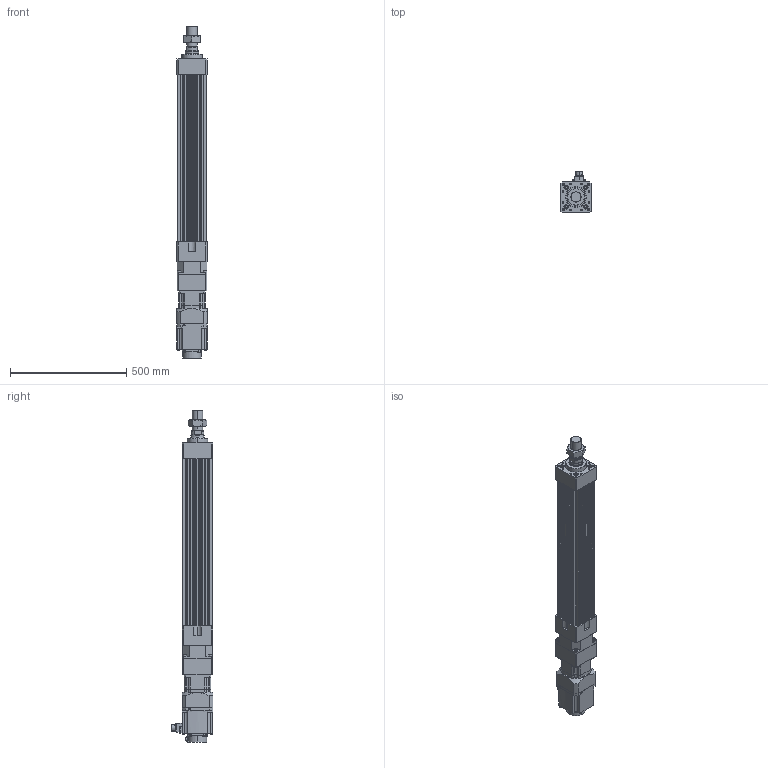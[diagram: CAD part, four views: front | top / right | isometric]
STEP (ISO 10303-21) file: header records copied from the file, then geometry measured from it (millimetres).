
FILE_DESCRIPTION (( 'STEP AP203' ), '1' );
FILE_NAME ('HES130NS(FS)(HS)-S500-W015G00-M.STEP', '2023-01-30T08:19:43', ( 'tms' ), ( '' ), 'SwSTEP 2.0', 'SolidWorks 2013', '' );
FILE_SCHEMA (( 'CONFIG_CONTROL_DESIGN' ));
Length unit declared in the file: millimetre
Products named in the file (8): HG-SR152; P0401400706; HES130NS(FS)(HS)-S500-W015G00-M; HES130-S500-G120; AB1151; M45X1.5P; AB115-003[HG-SR152]; HES130 ROD M ST500
Assembly tree (7 placements, depth 3):
  HES130NS(FS)(HS)-S500-W015G00-M
    HES130-S500-G120
    HES130 ROD M ST500
    M45X1.5P
    AB115-003[HG-SR152]
      AB1151
      P0401400706
    HG-SR152
Bounding box: 130 x 177.49 x 1429.5 mm (x, y, z)
Volume: 11162366.6 mm3; surface area: 1450007.8 mm2
Topology: 4 solids, 15 shells, 1220 faces, 3076 edges, 1983 vertices
Faces by surface type: cylinder 553, plane 551, cone 104, bspline 8, torus 4
Entity records: 38254 total; most frequent: CARTESIAN_POINT 7242, DIRECTION 6653, ORIENTED_EDGE 6060, EDGE_CURVE 3040, AXIS2_PLACEMENT_3D 2462, VERTEX_POINT 1983, LINE 1729, VECTOR 1729
